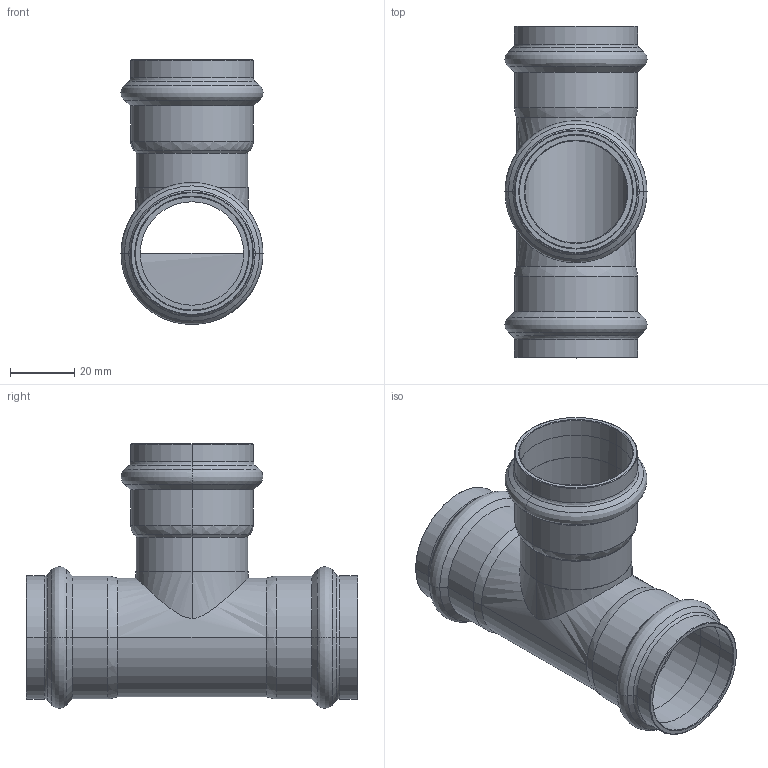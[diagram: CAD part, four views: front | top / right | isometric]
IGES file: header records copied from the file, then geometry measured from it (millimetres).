
Start section: Elysium IGES Interface
Global section: file name: C:\3d modellen sudo\C-Pr VP\SP8130V\8130VW35.igs; native system: CoCreate Modeling 17.00A  17-Jun-2010; preprocessor: CoCreate IGES_3D V2.2; author: Unknown; organization: Unknown; date: 20130129.161915; units: millimetre
Bounding box: 44.3 x 103.51 x 82.63 mm (x, y, z)
Volume: 30552.7 mm3; surface area: 34773.7 mm2
Topology: 1 solids, 1 shells, 128 faces, 272 edges, 148 vertices
Faces by surface type: bspline 128
